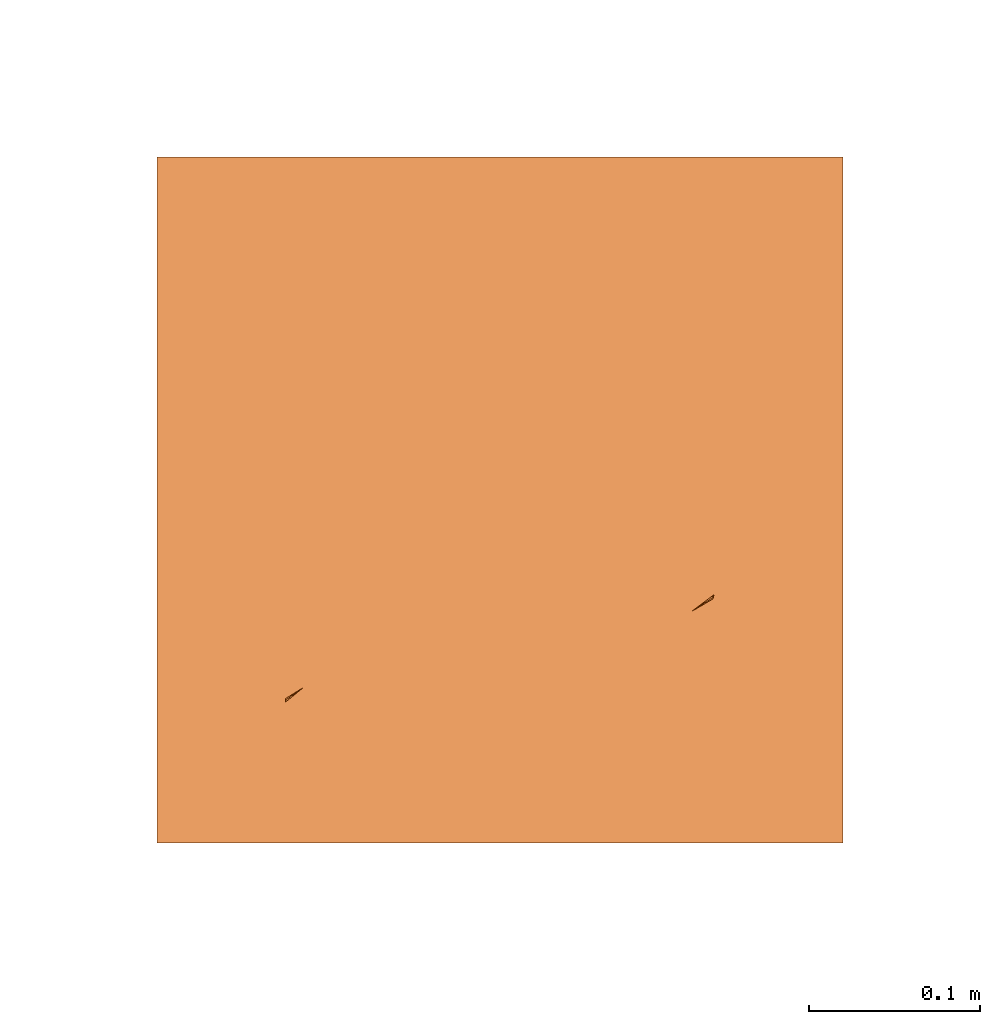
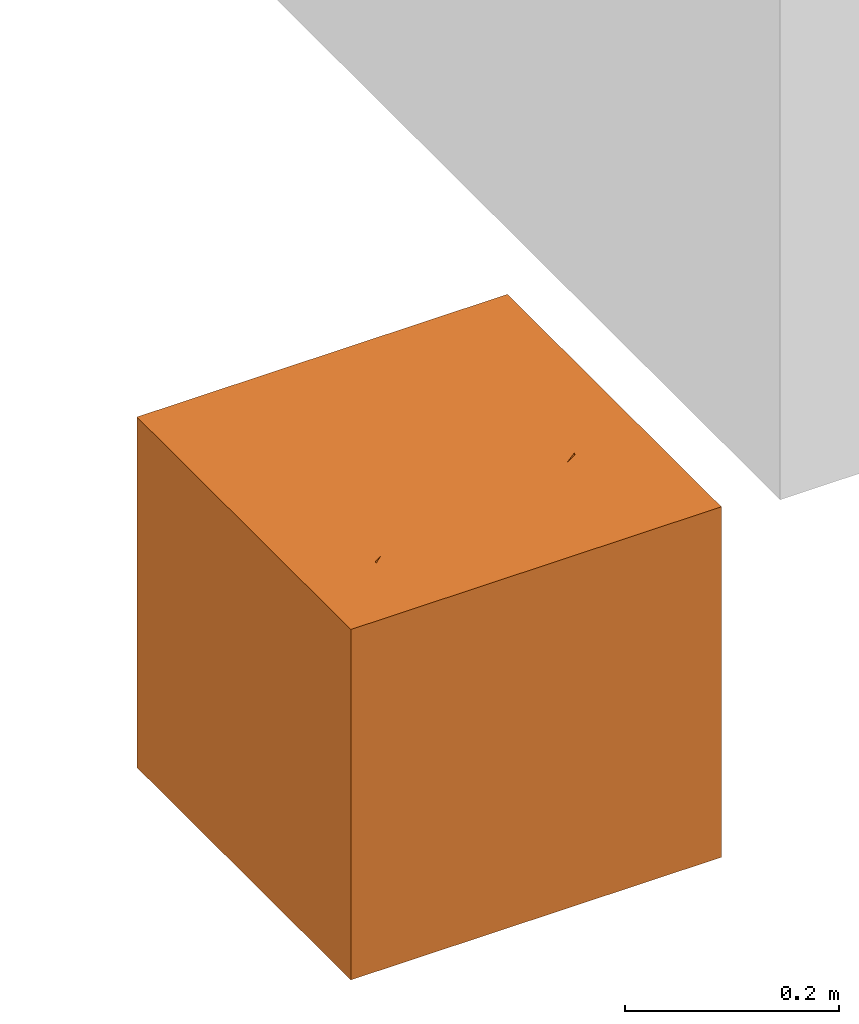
# One storey, part 49 of 49: 1 proxy.
"""IFC2X3 building model written with IfcOpenShell, lengths in millimetres."""

from ifc_helpers import new_model, entity, si_unit, converted_unit, derived_unit, direction, frame, origin, place, context, subcontext, project, spatial, faceted_brep, source, transform, mapped, material, element, save


model = new_model("IFC2X3")

# Units and contexts
model_context = context("Model", 3, precision=0.01, world=origin(), true_north=direction((6.12303176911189e-17, 1.0)))
body_context = subcontext(model_context, "Body", "Model", "MODEL_VIEW")
ifc_project = project(units=[si_unit("LENGTHUNIT", "METRE", prefix="MILLI"), si_unit("AREAUNIT", "SQUARE_METRE"), si_unit("VOLUMEUNIT", "CUBIC_METRE"), converted_unit("PLANEANGLEUNIT", "DEGREE", entity("IfcRatioMeasure", 0.0174532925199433), si_unit("PLANEANGLEUNIT", "RADIAN"), dimensions=[0, 0, 0, 0, 0, 0, 0]), si_unit("MASSUNIT", "GRAM", prefix="KILO"), derived_unit("MASSDENSITYUNIT", [(si_unit("MASSUNIT", "GRAM", prefix="KILO"), 1), (si_unit("LENGTHUNIT", "METRE"), -3)]), si_unit("TIMEUNIT", "SECOND"), si_unit("FREQUENCYUNIT", "HERTZ"), si_unit("THERMODYNAMICTEMPERATUREUNIT", "DEGREE_CELSIUS"), derived_unit("THERMALTRANSMITTANCEUNIT", [(si_unit("MASSUNIT", "GRAM", prefix="KILO"), 1), (si_unit("THERMODYNAMICTEMPERATUREUNIT", "KELVIN"), -1), (si_unit("TIMEUNIT", "SECOND"), -3)]), derived_unit("VOLUMETRICFLOWRATEUNIT", [(si_unit("LENGTHUNIT", "METRE"), 3), (si_unit("TIMEUNIT", "SECOND"), -1)]), si_unit("ELECTRICCURRENTUNIT", "AMPERE"), si_unit("ELECTRICVOLTAGEUNIT", "VOLT"), si_unit("POWERUNIT", "WATT"), si_unit("FORCEUNIT", "NEWTON", prefix="KILO"), si_unit("ILLUMINANCEUNIT", "LUX"), si_unit("LUMINOUSFLUXUNIT", "LUMEN"), si_unit("LUMINOUSINTENSITYUNIT", "CANDELA"), derived_unit("USERDEFINED", [(si_unit("MASSUNIT", "GRAM", prefix="KILO"), -1), (si_unit("LENGTHUNIT", "METRE"), -2), (si_unit("TIMEUNIT", "SECOND"), 3), (si_unit("LUMINOUSFLUXUNIT", "LUMEN"), 1)]), derived_unit("LINEARVELOCITYUNIT", [(si_unit("LENGTHUNIT", "METRE"), 1), (si_unit("TIMEUNIT", "SECOND"), -1)]), si_unit("PRESSUREUNIT", "PASCAL"), derived_unit("USERDEFINED", [(si_unit("LENGTHUNIT", "METRE"), -2), (si_unit("MASSUNIT", "GRAM", prefix="KILO"), 1), (si_unit("TIMEUNIT", "SECOND"), -2)])], contexts=[model_context])

# Site, building, storey
site_placement = place(None, frame((-151.875543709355, 2715.0, 0.0)))
site = spatial("IfcSite", under=ifc_project, at=site_placement, Name="Surface", CompositionType="ELEMENT")
building_placement = place(site_placement, origin())
building = spatial("IfcBuilding", under=site, at=building_placement, CompositionType="ELEMENT")
storey_placement = place(building_placement, origin())
storey = spatial("IfcBuildingStorey", under=building, at=storey_placement, Name="1 korrus", CompositionType="ELEMENT", Elevation=3.0969999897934e-10)

# Proxy
ifc_material = material(Name="GEE-punane")
shared_shape = source(origin(), body_context, "Body", "Brep", [
    faceted_brep([(323.075870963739, -68.6518748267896, 0.0), (268.653619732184, -55.3968949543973, 0.0), (237.091536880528, -47.7096941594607, 0.0), (194.099369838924, -37.2386038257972, 0.0), (151.107202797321, -26.7675134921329, 0.0), (118.332997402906, -69.5923435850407, 0.0), (85.5587920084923, -112.417173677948, 0.0), (52.7845866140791, -155.242003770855, 0.0), (20.0103812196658, -198.06683386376, 0.0), (51.8572178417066, -241.585721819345, 0.0), (83.7040544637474, -285.104609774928, 0.0), (115.550891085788, -328.623497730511, 0.0), (147.397727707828, -372.142385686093, 0.0), (198.13017379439, -353.857596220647, 0.0), (248.862619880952, -335.5728067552, 0.0), (299.595065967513, -317.288017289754, 0.0), (350.327512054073, -299.003227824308, 0.0), (353.351618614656, -254.857730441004, 0.0), (356.375725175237, -210.712233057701, 0.0), (358.595830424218, -178.30343776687, 0.0), (362.423938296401, -122.421238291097, 0.0), (360.332542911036, -120.041004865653, 0.0), (357.781919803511, -118.161173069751, 0.0), (350.981795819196, -115.928241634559, 0.0), (344.181671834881, -113.695310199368, 0.0), (337.062757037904, -114.436067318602, 0.0), (329.943842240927, -115.176824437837, 0.0), (141.749392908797, -176.324907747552, 0.0), (138.041542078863, -180.032758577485, 0.0), (135.625668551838, -182.44863210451, 0.0), (132.563806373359, -185.510494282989, 0.0), (129.50194419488, -188.572356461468, 0.0), (130.62266353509, -192.754937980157, 0.0), (131.7433828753, -196.937519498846, 0.0), (132.627654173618, -200.237664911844, 0.0), (133.98482155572, -205.302682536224, 0.0), (194.088897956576, -265.406758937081, 0.0), (197.838897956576, -267.400669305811, 0.0), (201.588897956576, -269.394579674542, 0.0), (205.338897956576, -271.388490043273, 0.0), (209.088897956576, -273.382400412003, 0.0), (212.838897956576, -271.388490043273, 0.0), (216.588897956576, -269.394579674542, 0.0), (219.116003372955, -268.050893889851, 0.0), (224.088897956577, -265.406758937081, 0.0), (291.192046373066, -165.922250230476, 0.0), (293.692046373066, -164.92518747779, 0.0), (296.192046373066, -163.928124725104, 0.0), (298.692046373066, -162.931061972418, 0.0), (301.192046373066, -161.933999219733, 0.0), (304.27907720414, -163.165184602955, 0.0), (307.366108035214, -164.396369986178, 0.0), (311.192046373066, -165.922250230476, 0.0), (330.046335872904, -236.287416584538, 0.0), (329.582589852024, -241.588057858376, 0.0), (329.118843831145, -246.888699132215, 0.0), (326.975690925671, -249.031852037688, 0.0), (324.832538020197, -251.175004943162, 0.0), (321.593970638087, -254.413572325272, 0.0), (162.990107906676, -328.371768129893, 0.0), (157.689466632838, -327.908022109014, 0.0), (152.388825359, -327.444276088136, 0.0), (150.245672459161, -325.301123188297, 0.0), (148.102519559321, -323.157970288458, 0.0), (144.863952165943, -319.919402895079, 0.0), (70.9057563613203, -161.315540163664, 0.0), (72.1225757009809, -156.552806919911, 0.0), (73.3393950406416, -151.790073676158, 0.0), (74.5562143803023, -147.027340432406, 0.0), (75.773033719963, -142.264607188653, 0.0), (82.2290744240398, -138.476800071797, 0.0), (88.6851151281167, -134.688992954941, 0.0), (314.459367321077, -90.8029240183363, 0.0), (317.466142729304, -88.3387204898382, 0.0), (320.472918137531, -85.8745169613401, 0.0), (323.479693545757, -83.410313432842, 0.0), (326.486468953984, -80.9461099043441, 0.0), (325.633819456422, -77.872551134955, 0.0), (324.78116995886, -74.798992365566, 0.0), (323.928520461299, -71.725433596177, 0.0), (194.088897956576, -265.406758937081, -20.0), (133.98482155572, -205.302682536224, -20.0), (132.86410221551, -201.120101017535, -20.0), (131.7433828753, -196.937519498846, -20.0), (130.62266353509, -192.754937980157, -20.0), (129.50194419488, -188.572356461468, -20.0), (132.563806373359, -185.510494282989, -20.0), (135.625668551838, -182.44863210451, -20.0), (138.687530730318, -179.386769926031, -20.0), (141.749392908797, -176.324907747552, -20.0), (329.943842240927, -115.176824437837, -20.0), (337.062757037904, -114.436067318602, -20.0), (344.181671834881, -113.695310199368, -20.0), (350.579396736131, -115.796107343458, -20.0), (357.781919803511, -118.161173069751, -20.0), (360.332542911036, -120.041004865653, -20.0), (362.423938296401, -122.421238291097, -20.0), (359.399831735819, -166.566735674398, -20.0), (356.375725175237, -210.712233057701, -20.0), (353.351618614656, -254.857730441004, -20.0), (350.327512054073, -299.003227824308, -20.0), (299.595065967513, -317.288017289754, -20.0), (248.862619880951, -335.5728067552, -20.0), (198.13017379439, -353.857596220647, -20.0), (147.397727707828, -372.142385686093, -20.0), (115.550891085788, -328.623497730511, -20.0), (83.7040544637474, -285.104609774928, -20.0), (51.8572178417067, -241.585721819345, -20.0), (20.0103812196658, -198.06683386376, -20.0), (52.7845866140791, -155.242003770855, -20.0), (85.5587920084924, -112.417173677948, -20.0), (118.332997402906, -69.5923435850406, -20.0), (151.107202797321, -26.7675134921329, -20.0), (194.099369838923, -37.2386038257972, -20.0), (237.091536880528, -47.7096941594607, -20.0), (280.083703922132, -58.1807844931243, -20.0), (323.075870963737, -68.6518748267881, -20.0), (323.627172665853, -72.5001294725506, -20.0), (324.178474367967, -76.3483841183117, -20.0), (324.729776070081, -80.1966387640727, -20.0), (325.281077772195, -84.0448934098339, -20.0), (322.575650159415, -85.7344010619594, -20.0), (319.870222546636, -87.423908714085, -20.0), (317.164794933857, -89.1134163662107, -20.0), (314.459367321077, -90.8029240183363, -20.0), (88.6851151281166, -134.688992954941, -20.0), (84.7524068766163, -137.638244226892, -20.0), (80.819698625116, -140.587495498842, -20.0), (76.8869903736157, -143.536746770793, -20.0), (72.9542821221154, -146.485998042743, -20.0), (71.9300192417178, -153.900769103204, -20.0), (70.9057563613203, -161.315540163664, -20.0), (144.863952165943, -319.919402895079, -20.0), (148.626388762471, -323.681839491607, -20.0), (152.388825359, -327.444276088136, -20.0), (155.039145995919, -327.676149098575, -20.0), (157.689466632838, -327.908022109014, -20.0), (162.990107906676, -328.371768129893, -20.0), (321.593970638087, -254.413572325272, -20.0), (325.356407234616, -250.651135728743, -20.0), (329.118843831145, -246.888699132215, -20.0), (329.350716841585, -244.238378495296, -20.0), (329.582589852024, -241.588057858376, -20.0), (330.046335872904, -236.287416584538, -20.0), (311.192046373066, -165.922250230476, -20.0), (308.692046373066, -164.92518747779, -20.0), (306.192046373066, -163.928124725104, -20.0), (303.692046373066, -162.931061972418, -20.0), (301.192046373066, -161.933999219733, -20.0), (298.692046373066, -162.931061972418, -20.0), (296.192046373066, -163.928124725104, -20.0), (293.692046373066, -164.92518747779, -20.0), (291.192046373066, -165.922250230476, -20.0), (224.088897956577, -265.406758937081, -20.0), (220.338897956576, -267.400669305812, -20.0), (216.588897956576, -269.394579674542, -20.0), (212.838897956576, -271.388490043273, -20.0), (209.088897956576, -273.382400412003, -20.0), (205.338897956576, -271.388490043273, -20.0), (201.588897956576, -269.394579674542, -20.0), (197.838897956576, -267.400669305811, -20.0)], [[[0, 1, 2, 3, 4, 5, 6, 7, 8, 9, 10, 11, 12, 13, 14, 15, 16, 17, 18, 19, 20, 21, 22, 23, 24, 25, 26, 27, 28, 29, 30, 31, 32, 33, 34, 35, 36, 37, 38, 39, 40, 41, 42, 43, 44, 45, 46, 47, 48, 49, 50, 51, 52, 53, 54, 55, 56, 57, 58, 59, 60, 61, 62, 63, 64, 65, 66, 67, 68, 69, 70, 71, 72, 73, 74, 75, 76, 77, 78, 79]], [[80, 81, 82, 83, 84, 85, 86, 87, 88, 89, 90, 91, 92, 93, 94, 95, 96, 97, 98, 99, 100, 101, 102, 103, 104, 105, 106, 107, 108, 109, 110, 111, 112, 113, 114, 115, 116, 117, 118, 119, 120, 121, 122, 123, 124, 125, 126, 127, 128, 129, 130, 131, 132, 133, 134, 135, 136, 137, 138, 139, 140, 141, 142, 143, 144, 145, 146, 147, 148, 149, 150, 151, 152, 153, 154, 155, 156, 157, 158, 159, 160]], [[116, 0, 79]], [[78, 118, 117]], [[118, 77, 119]], [[123, 73, 72]], [[72, 124, 123]], [[76, 75, 120]], [[74, 121, 75]], [[120, 75, 121]], [[79, 117, 116]], [[76, 119, 77]], [[122, 74, 73]], [[76, 120, 119]], [[77, 118, 78]], [[74, 122, 121]], [[79, 78, 117]], [[123, 122, 73]], [[124, 72, 71, 125]], [[126, 125, 71]], [[128, 127, 69]], [[131, 130, 66]], [[127, 70, 69]], [[66, 65, 131]], [[68, 128, 69]], [[70, 127, 126]], [[71, 70, 126]], [[128, 68, 129]], [[67, 130, 129]], [[68, 67, 129]], [[130, 67, 66]], [[131, 65, 64, 132]], [[134, 133, 132, 64, 63, 62, 61]], [[134, 61, 60, 59, 137, 136, 135]], [[137, 59, 58, 138]], [[140, 139, 138, 58, 57, 56, 55]], [[140, 55, 54, 53, 143, 142, 141]], [[143, 53, 52, 144]], [[51, 50, 49, 148, 147, 146, 145, 144, 52]], [[47, 46, 45, 152, 151, 150, 149, 148, 49, 48]], [[153, 152, 45, 44]], [[36, 80, 160, 159, 158, 157, 40, 39, 38, 37]], [[156, 155, 154, 153, 44, 43, 42, 41, 40, 157]], [[80, 36, 35, 81]], [[31, 30, 29, 28, 27, 89, 88, 87, 86, 85]], [[84, 83, 82, 81, 35, 34, 33, 32, 31, 85]], [[89, 27, 26, 90]], [[26, 25, 24, 92, 91, 90]], [[23, 22, 94, 93, 92, 24]], [[21, 95, 94, 22]], [[20, 96, 95, 21]], [[4, 3, 2, 1, 0, 116, 115, 114, 113, 112]], [[18, 17, 16, 100, 99, 98, 97, 96, 20, 19]], [[13, 12, 104, 103, 102, 101, 100, 16, 15, 14]], [[9, 8, 108, 107, 106, 105, 104, 12, 11, 10]], [[5, 4, 112, 111, 110, 109, 108, 8, 7, 6]]]),
    faceted_brep([(357.781919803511, -118.161173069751, 0.0), (323.075870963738, -68.6518748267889, 0.0), (323.627172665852, -72.5001294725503, 0.0), (400.0, 0.0, 0.0), (360.332542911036, -120.041004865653, 0.0), (324.178474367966, -76.3483841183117, 0.0), (324.72977607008, -80.1966387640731, 0.0), (325.281077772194, -84.0448934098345, 0.0), (350.981795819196, -115.928241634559, 0.0), (362.423938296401, -122.421238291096, 0.0), (400.0, -400.0, 0.0), (358.595830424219, -178.303437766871, 0.0), (356.375725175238, -210.712233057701, 0.0), (353.351618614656, -254.857730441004, 0.0), (350.327512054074, -299.003227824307, 0.0), (299.595065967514, -317.288017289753, 0.0), (248.862619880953, -335.5728067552, 0.0), (198.130173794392, -353.857596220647, 0.0), (147.39772770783, -372.142385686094, 0.0), (0.0, -400.0, 0.0), (115.55089108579, -328.623497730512, 0.0), (83.7040544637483, -285.104609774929, 0.0), (51.8572178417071, -241.585721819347, 0.0), (20.0103812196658, -198.066833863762, 0.0), (0.0, 0.0, 0.0), (52.7845866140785, -155.242003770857, 0.0), (85.558792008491, -112.417173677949, 0.0), (118.332997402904, -69.5923435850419, 0.0), (151.107202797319, -26.7675134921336, 0.0), (194.099369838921, -37.2386038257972, 0.0), (237.091536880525, -47.7096941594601, 0.0), (268.653619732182, -55.3968949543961, 0.0), (344.181671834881, -113.695310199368, 0.0), (337.062757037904, -114.436067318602, 0.0), (329.943842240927, -115.176824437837, 0.0), (322.575650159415, -85.7344010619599, 0.0), (319.870222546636, -87.4239087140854, 0.0), (317.164794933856, -89.1134163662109, 0.0), (314.459367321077, -90.8029240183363, 0.0), (141.749392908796, -176.324907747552, 0.0), (88.6851151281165, -134.688992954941, 0.0), (138.041542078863, -180.032758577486, 0.0), (135.625668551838, -182.44863210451, 0.0), (132.563806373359, -185.510494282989, 0.0), (129.50194419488, -188.572356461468, 0.0), (70.9057563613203, -161.315540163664, 0.0), (84.7524068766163, -137.638244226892, 0.0), (80.819698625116, -140.587495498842, 0.0), (76.8869903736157, -143.536746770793, 0.0), (71.9300192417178, -153.900769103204, 0.0), (72.9542821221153, -146.485998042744, 0.0), (130.62266353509, -192.754937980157, 0.0), (131.7433828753, -196.937519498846, 0.0), (132.627654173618, -200.237664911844, 0.0), (133.98482155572, -205.302682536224, 0.0), (144.863952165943, -319.919402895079, 0.0), (194.088897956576, -265.40675893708, 0.0), (162.990107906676, -328.371768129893, 0.0), (148.102519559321, -323.157970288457, 0.0), (150.245672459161, -325.301123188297, 0.0), (157.689466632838, -327.908022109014, 0.0), (152.388825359, -327.444276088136, 0.0), (197.838897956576, -267.400669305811, 0.0), (201.588897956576, -269.394579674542, 0.0), (205.338897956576, -271.388490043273, 0.0), (209.088897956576, -273.382400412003, 0.0), (212.838897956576, -271.388490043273, 0.0), (216.588897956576, -269.394579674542, 0.0), (219.116003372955, -268.050893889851, 0.0), (224.088897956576, -265.406758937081, 0.0), (321.593970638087, -254.413572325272, 0.0), (291.192046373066, -165.922250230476, 0.0), (330.046335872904, -236.287416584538, 0.0), (324.832538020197, -251.175004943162, 0.0), (326.975690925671, -249.031852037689, 0.0), (329.582589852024, -241.588057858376, 0.0), (329.118843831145, -246.888699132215, 0.0), (311.192046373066, -165.922250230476, 0.0), (307.366108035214, -164.396369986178, 0.0), (304.27907720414, -163.165184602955, 0.0), (293.692046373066, -164.92518747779, 0.0), (296.192046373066, -163.928124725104, 0.0), (298.692046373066, -162.931061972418, 0.0), (301.192046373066, -161.933999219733, 0.0), (400.0, 0.0, -400.0), (400.0, -400.0, -400.0), (0.0, -400.0, -400.0), (0.0, 0.0, -400.0), (224.088897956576, -265.406758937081, -20.0), (291.192046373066, -165.922250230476, -20.0), (293.692046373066, -164.92518747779, -20.0), (296.192046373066, -163.928124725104, -20.0), (298.692046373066, -162.931061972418, -20.0), (301.192046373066, -161.933999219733, -20.0), (303.692046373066, -162.931061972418, -20.0), (306.192046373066, -163.928124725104, -20.0), (308.692046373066, -164.92518747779, -20.0), (311.192046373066, -165.922250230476, -20.0), (330.046335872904, -236.287416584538, -20.0), (329.582589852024, -241.588057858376, -20.0), (329.350716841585, -244.238378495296, -20.0), (329.118843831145, -246.888699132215, -20.0), (325.356407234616, -250.651135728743, -20.0), (321.593970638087, -254.413572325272, -20.0), (162.990107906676, -328.371768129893, -20.0), (157.689466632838, -327.908022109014, -20.0), (155.039145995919, -327.676149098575, -20.0), (152.388825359, -327.444276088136, -20.0), (148.626388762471, -323.681839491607, -20.0), (144.863952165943, -319.919402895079, -20.0), (70.9057563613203, -161.315540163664, -20.0), (72.122575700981, -156.552806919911, -20.0), (73.3393950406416, -151.790073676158, -20.0), (74.5562143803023, -147.027340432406, -20.0), (75.773033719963, -142.264607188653, -20.0), (82.2290744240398, -138.476800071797, -20.0), (88.6851151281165, -134.688992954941, -20.0), (314.459367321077, -90.8029240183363, -20.0), (317.466142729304, -88.3387204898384, -20.0), (320.47291813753, -85.8745169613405, -20.0), (323.479693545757, -83.4103134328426, -20.0), (326.486468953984, -80.9461099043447, -20.0), (325.633819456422, -77.8725511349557, -20.0), (324.781169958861, -74.7989923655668, -20.0), (323.928520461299, -71.7254335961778, -20.0), (323.075870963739, -68.6518748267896, -20.0), (280.083703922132, -58.180784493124, -20.0), (237.091536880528, -47.7096941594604, -20.0), (194.099369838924, -37.2386038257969, -20.0), (151.107202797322, -26.7675134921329, -20.0), (118.332997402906, -69.5923435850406, -20.0), (85.5587920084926, -112.417173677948, -20.0), (52.7845866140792, -155.242003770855, -20.0), (20.0103812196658, -198.06683386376, -20.0), (51.8572178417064, -241.585721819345, -20.0), (83.7040544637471, -285.104609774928, -20.0), (115.550891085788, -328.623497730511, -20.0), (147.397727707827, -372.142385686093, -20.0), (198.13017379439, -353.857596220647, -20.0), (248.862619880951, -335.5728067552, -20.0), (299.595065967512, -317.288017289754, -20.0), (350.327512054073, -299.003227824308, -20.0), (353.351618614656, -254.857730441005, -20.0), (356.375725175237, -210.712233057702, -20.0), (359.399831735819, -166.566735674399, -20.0), (362.423938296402, -122.421238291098, -20.0), (360.332542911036, -120.041004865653, -20.0), (357.781919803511, -118.161173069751, -20.0), (350.579396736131, -115.796107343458, -20.0), (344.181671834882, -113.695310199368, -20.0), (337.062757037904, -114.436067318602, -20.0), (329.943842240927, -115.176824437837, -20.0), (141.749392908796, -176.324907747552, -20.0), (138.687530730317, -179.386769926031, -20.0), (135.625668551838, -182.44863210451, -20.0), (132.563806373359, -185.510494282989, -20.0), (129.50194419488, -188.572356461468, -20.0), (130.62266353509, -192.754937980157, -20.0), (131.7433828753, -196.937519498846, -20.0), (132.86410221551, -201.120101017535, -20.0), (133.98482155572, -205.302682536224, -20.0), (194.088897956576, -265.40675893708, -20.0), (197.838897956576, -267.400669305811, -20.0), (201.588897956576, -269.394579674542, -20.0), (205.338897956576, -271.388490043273, -20.0), (209.088897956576, -273.382400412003, -20.0), (212.838897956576, -271.388490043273, -20.0), (216.588897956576, -269.394579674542, -20.0), (220.338897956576, -267.400669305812, -20.0)], [[[0, 1, 2]], [[3, 1, 0]], [[3, 0, 4]], [[0, 2, 5]], [[0, 5, 6]], [[0, 6, 7]], [[7, 8, 0]], [[3, 4, 9]], [[9, 10, 3]], [[10, 9, 11]], [[10, 11, 12]], [[10, 12, 13]], [[10, 13, 14]], [[10, 14, 15]], [[10, 15, 16]], [[10, 16, 17]], [[10, 17, 18]], [[10, 18, 19]], [[19, 18, 20]], [[19, 20, 21]], [[19, 21, 22]], [[19, 22, 23]], [[24, 19, 23]], [[24, 23, 25]], [[24, 25, 26]], [[24, 26, 27]], [[24, 27, 28]], [[3, 28, 29]], [[3, 24, 28]], [[3, 29, 30]], [[3, 30, 31]], [[3, 31, 1]], [[7, 32, 8]], [[7, 33, 32]], [[7, 34, 33]], [[34, 7, 35]], [[34, 35, 36]], [[34, 36, 37]], [[34, 37, 38]], [[34, 38, 39]], [[39, 38, 40]], [[40, 41, 39]], [[40, 42, 41]], [[40, 43, 42]], [[40, 44, 43]], [[44, 40, 45]], [[45, 40, 46]], [[45, 46, 47]], [[45, 47, 48]], [[48, 49, 45]], [[48, 50, 49]], [[45, 51, 44]], [[45, 52, 51]], [[45, 53, 52]], [[45, 54, 53]], [[45, 55, 54]], [[56, 54, 55]], [[56, 55, 57]], [[57, 55, 58]], [[57, 58, 59]], [[59, 60, 57]], [[59, 61, 60]], [[57, 62, 56]], [[57, 63, 62]], [[57, 64, 63]], [[57, 65, 64]], [[57, 66, 65]], [[57, 67, 66]], [[57, 68, 67]], [[57, 69, 68]], [[69, 57, 70]], [[69, 70, 71]], [[70, 72, 71]], [[72, 70, 73]], [[72, 73, 74]], [[74, 75, 72]], [[74, 76, 75]], [[71, 72, 77]], [[71, 77, 78]], [[71, 78, 79]], [[79, 80, 71]], [[79, 81, 80]], [[79, 82, 81]], [[79, 83, 82]], [[84, 85, 86, 87]], [[84, 3, 10, 85]], [[85, 10, 19, 86]], [[86, 19, 24, 87]], [[87, 24, 3, 84]], [[88, 89, 90, 91, 92, 93, 94, 95, 96, 97, 98, 99, 100, 101, 102, 103, 104, 105, 106, 107, 108, 109, 110, 111, 112, 113, 114, 115, 116, 117, 118, 119, 120, 121, 122, 123, 124, 125, 126, 127, 128, 129, 130, 131, 132, 133, 134, 135, 136, 137, 138, 139, 140, 141, 142, 143, 144, 145, 146, 147, 148, 149, 150, 151, 152, 153, 154, 155, 156, 157, 158, 159, 160, 161, 162, 163, 164, 165, 166, 167, 168]], [[129, 128, 127, 126, 125, 1, 31, 30, 29, 28]], [[143, 142, 141, 14, 13, 12, 11, 9, 145, 144]], [[16, 15, 14, 141, 140, 139, 138, 137, 18, 17]], [[21, 20, 18, 137, 136, 135, 134, 133, 23, 22]], [[26, 25, 23, 133, 132, 131, 130, 129, 28, 27]], [[151, 150, 149, 32, 33, 34]], [[32, 149, 148, 147, 0, 8]], [[34, 39, 152, 151]], [[156, 155, 154, 153, 152, 39, 41, 42, 43, 44]], [[51, 52, 53, 54, 160, 159, 158, 157, 156, 44]], [[54, 56, 161, 160]], [[62, 63, 64, 65, 165, 164, 163, 162, 161, 56]], [[66, 67, 68, 69, 88, 168, 167, 166, 165, 65]], [[69, 71, 89, 88]], [[95, 94, 93, 83, 79, 78, 77, 97, 96]], [[82, 83, 93, 92, 91, 90, 89, 71, 80, 81]], [[77, 72, 98, 97]], [[74, 73, 70, 103, 102, 101, 76]], [[100, 99, 98, 72, 75, 76, 101]], [[70, 57, 104, 103]], [[59, 58, 55, 109, 108, 107, 61]], [[106, 105, 104, 57, 60, 61, 107]], [[55, 45, 110, 109]], [[115, 47, 46]], [[48, 47, 114, 50]], [[46, 40, 116]], [[49, 111, 45]], [[110, 45, 111]], [[115, 46, 116]], [[115, 114, 47]], [[49, 50, 112]], [[113, 112, 50, 114]], [[49, 112, 111]], [[40, 38, 117, 116]], [[6, 122, 121]], [[125, 124, 1]], [[7, 121, 120]], [[123, 5, 2]], [[120, 119, 35]], [[37, 36, 118]], [[117, 38, 37]], [[5, 122, 6]], [[1, 124, 2]], [[2, 124, 123]], [[36, 119, 118]], [[117, 37, 118]], [[121, 7, 6]], [[5, 123, 122]], [[119, 36, 35]], [[7, 120, 35]], [[0, 147, 146, 4]], [[146, 145, 9, 4]]]),
])
proxy_placement = place(storey_placement, frame((151.87554554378, -2715.0, 0.0), z_axis=(0.0, 0.0, 1.0), x_axis=(-1.0, 0.0, 0.0)))
element("IfcBuildingElementProxy", 1, at=proxy_placement, inside=storey, material=ifc_material, Name="Reeper1:Reeper", ObjectType="Reeper", context=body_context, shape_type="MappedRepresentation", body=[
    mapped(shared_shape, transform((0.0, 0.0, 0.0), scale=1.0)),
])

save(model, "model.ifc")
